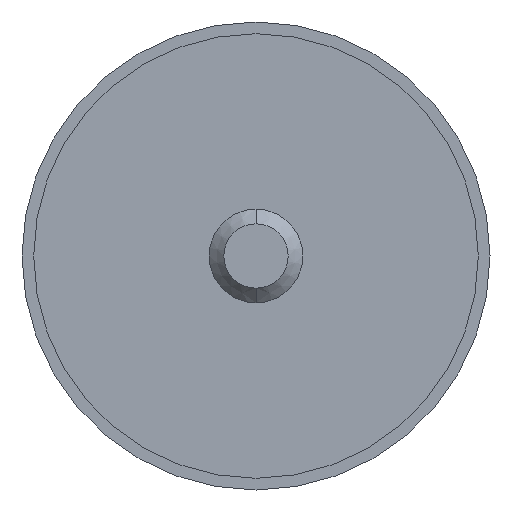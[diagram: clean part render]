
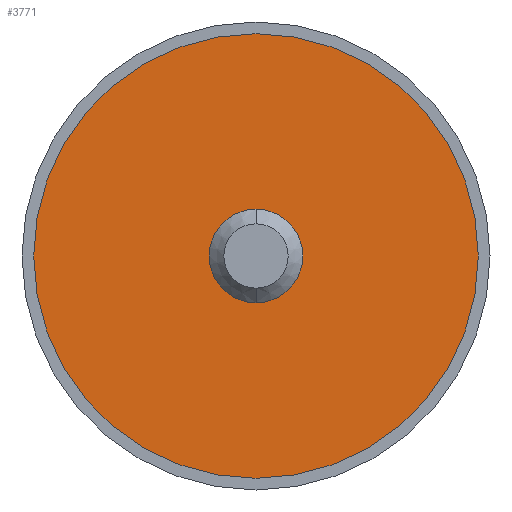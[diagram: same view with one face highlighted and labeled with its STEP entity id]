
A CAD part, front view. The second image highlights one B-rep face of the part: STEP entity #3771.
In plain terms, the highlighted planar face has unit normal (0, -1, 0).
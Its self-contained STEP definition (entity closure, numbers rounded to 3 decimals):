
#134 = EDGE_CURVE ( 'NONE', #2774, #2918, #3096, .T. ) ;
#214 = CARTESIAN_POINT ( 'NONE',  ( 0., -1., -4. ) ) ;
#285 = CARTESIAN_POINT ( 'NONE',  ( 0., -1., 0. ) ) ;
#293 = CARTESIAN_POINT ( 'NONE',  ( 0., -1., 19. ) ) ;
#379 = AXIS2_PLACEMENT_3D ( 'NONE', #3511, #2878, #2896 ) ;
#400 = VERTEX_POINT ( 'NONE', #293 ) ;
#419 = EDGE_CURVE ( 'NONE', #2918, #2774, #3518, .T. ) ;
#470 = EDGE_CURVE ( 'NONE', #400, #2685, #860, .T. ) ;
#572 = DIRECTION ( 'NONE',  ( 0., 1., 0. ) ) ;
#732 = EDGE_LOOP ( 'NONE', ( #3692, #3107 ) ) ;
#860 = CIRCLE ( 'NONE', #2380, 19. ) ;
#1135 = AXIS2_PLACEMENT_3D ( 'NONE', #2060, #572, #3911 ) ;
#1152 = EDGE_LOOP ( 'NONE', ( #1172, #3115 ) ) ;
#1172 = ORIENTED_EDGE ( 'NONE', *, *, #470, .F. ) ;
#1234 = DIRECTION ( 'NONE',  ( 0., 0., -1. ) ) ;
#1250 = CARTESIAN_POINT ( 'NONE',  ( 0., -1., 0. ) ) ;
#1283 = FACE_BOUND ( 'NONE', #732, .T. ) ;
#1527 = DIRECTION ( 'NONE',  ( 0., 0., 1. ) ) ;
#1830 = DIRECTION ( 'NONE',  ( 0., -1., 0. ) ) ;
#1885 = EDGE_CURVE ( 'NONE', #2685, #400, #2413, .T. ) ;
#2060 = CARTESIAN_POINT ( 'NONE',  ( 0., -1., 0. ) ) ;
#2380 = AXIS2_PLACEMENT_3D ( 'NONE', #1250, #3375, #1527 ) ;
#2404 = DIRECTION ( 'NONE',  ( 0., 0., -1. ) ) ;
#2413 = CIRCLE ( 'NONE', #379, 19. ) ;
#2419 = DIRECTION ( 'NONE',  ( 0., -1., 0. ) ) ;
#2484 = AXIS2_PLACEMENT_3D ( 'NONE', #285, #2419, #2404 ) ;
#2546 = AXIS2_PLACEMENT_3D ( 'NONE', #3033, #1830, #1234 ) ;
#2629 = FACE_OUTER_BOUND ( 'NONE', #1152, .T. ) ;
#2685 = VERTEX_POINT ( 'NONE', #3359 ) ;
#2774 = VERTEX_POINT ( 'NONE', #3435 ) ;
#2878 = DIRECTION ( 'NONE',  ( 0., 1., 0. ) ) ;
#2896 = DIRECTION ( 'NONE',  ( 0., 0., 1. ) ) ;
#2918 = VERTEX_POINT ( 'NONE', #214 ) ;
#3022 = PLANE ( 'NONE',  #1135 ) ;
#3033 = CARTESIAN_POINT ( 'NONE',  ( 0., -1., 0. ) ) ;
#3096 = CIRCLE ( 'NONE', #2484, 4. ) ;
#3107 = ORIENTED_EDGE ( 'NONE', *, *, #419, .F. ) ;
#3115 = ORIENTED_EDGE ( 'NONE', *, *, #1885, .F. ) ;
#3359 = CARTESIAN_POINT ( 'NONE',  ( 0., -1., -19. ) ) ;
#3375 = DIRECTION ( 'NONE',  ( 0., 1., 0. ) ) ;
#3435 = CARTESIAN_POINT ( 'NONE',  ( 0., -1., 4. ) ) ;
#3511 = CARTESIAN_POINT ( 'NONE',  ( 0., -1., 0. ) ) ;
#3518 = CIRCLE ( 'NONE', #2546, 4. ) ;
#3692 = ORIENTED_EDGE ( 'NONE', *, *, #134, .F. ) ;
#3771 = ADVANCED_FACE ( 'NONE', ( #1283, #2629 ), #3022, .F. ) ;
#3911 = DIRECTION ( 'NONE',  ( 0., 0., 1. ) ) ;
